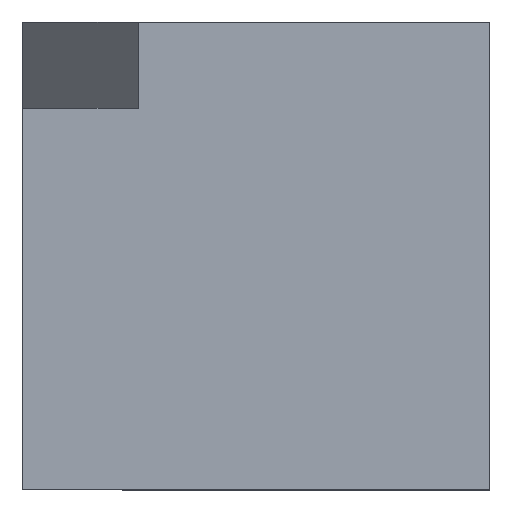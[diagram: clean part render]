
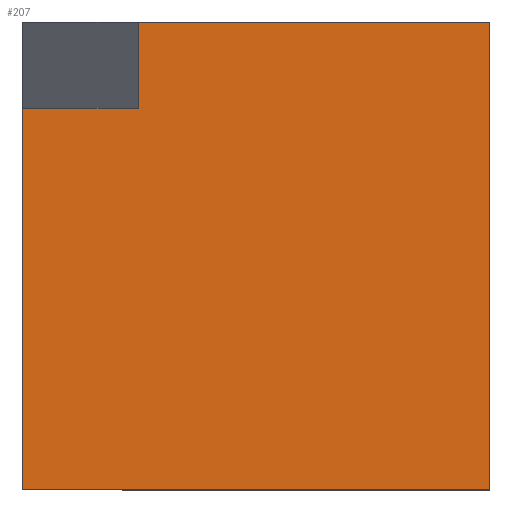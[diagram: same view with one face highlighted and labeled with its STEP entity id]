
A CAD part, top view. The second image highlights one B-rep face of the part: STEP entity #207.
In plain terms, the highlighted planar face has unit normal (0, 0, 1).
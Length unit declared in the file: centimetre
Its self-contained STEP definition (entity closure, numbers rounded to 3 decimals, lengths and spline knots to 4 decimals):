
#2 = VERTEX_POINT ( 'NONE', #575 ) ;
#26 = CARTESIAN_POINT ( 'NONE',  ( 1000., 1000., 1000. ) ) ;
#33 = EDGE_CURVE ( 'NONE', #318, #74, #305, .T. ) ;
#54 = VECTOR ( 'NONE', #194, 100. ) ;
#61 = ORIENTED_EDGE ( 'NONE', *, *, #33, .T. ) ;
#63 = FACE_OUTER_BOUND ( 'NONE', #244, .T. ) ;
#64 = VECTOR ( 'NONE', #544, 100. ) ;
#67 = LINE ( 'NONE', #461, #514 ) ;
#69 = LINE ( 'NONE', #630, #416 ) ;
#71 = PLANE ( 'NONE',  #669 ) ;
#74 = VERTEX_POINT ( 'NONE', #301 ) ;
#77 = ORIENTED_EDGE ( 'NONE', *, *, #364, .T. ) ;
#83 = CARTESIAN_POINT ( 'NONE',  ( 248.1122, 815.625, 1000. ) ) ;
#128 = DIRECTION ( 'NONE',  ( 0., 1., 0. ) ) ;
#137 = LINE ( 'NONE', #83, #230 ) ;
#194 = DIRECTION ( 'NONE',  ( 0., 1., 0. ) ) ;
#207 = ADVANCED_FACE ( 'NONE', ( #63 ), #71, .T. ) ;
#211 = CARTESIAN_POINT ( 'NONE',  ( 248.1122, 1000., 1000. ) ) ;
#227 = CARTESIAN_POINT ( 'NONE',  ( 0., 0., 1000. ) ) ;
#230 = VECTOR ( 'NONE', #354, 100. ) ;
#239 = EDGE_CURVE ( 'NONE', #74, #420, #69, .T. ) ;
#244 = EDGE_LOOP ( 'NONE', ( #578, #655, #77, #310, #61, #366 ) ) ;
#253 = VERTEX_POINT ( 'NONE', #574 ) ;
#267 = EDGE_CURVE ( 'NONE', #2, #420, #67, .T. ) ;
#270 = CARTESIAN_POINT ( 'NONE',  ( 0., 0., 1000. ) ) ;
#281 = EDGE_CURVE ( 'NONE', #253, #318, #576, .T. ) ;
#292 = DIRECTION ( 'NONE',  ( 0., 0., 1. ) ) ;
#301 = CARTESIAN_POINT ( 'NONE',  ( 1000., 1000., 1000. ) ) ;
#305 = LINE ( 'NONE', #26, #54 ) ;
#310 = ORIENTED_EDGE ( 'NONE', *, *, #281, .T. ) ;
#318 = VERTEX_POINT ( 'NONE', #601 ) ;
#354 = DIRECTION ( 'NONE',  ( 1., 0., 0. ) ) ;
#364 = EDGE_CURVE ( 'NONE', #547, #253, #723, .T. ) ;
#366 = ORIENTED_EDGE ( 'NONE', *, *, #239, .T. ) ;
#385 = VECTOR ( 'NONE', #667, 100. ) ;
#416 = VECTOR ( 'NONE', #522, 100. ) ;
#420 = VERTEX_POINT ( 'NONE', #211 ) ;
#461 = CARTESIAN_POINT ( 'NONE',  ( 248.1122, 815.625, 1000. ) ) ;
#488 = CARTESIAN_POINT ( 'NONE',  ( 0., 1000., 1000. ) ) ;
#514 = VECTOR ( 'NONE', #128, 100. ) ;
#522 = DIRECTION ( 'NONE',  ( -1., 0., 0. ) ) ;
#524 = DIRECTION ( 'NONE',  ( 1., 0., 0. ) ) ;
#544 = DIRECTION ( 'NONE',  ( 1., 0., 0. ) ) ;
#547 = VERTEX_POINT ( 'NONE', #565 ) ;
#565 = CARTESIAN_POINT ( 'NONE',  ( 0., 815.625, 1000. ) ) ;
#574 = CARTESIAN_POINT ( 'NONE',  ( 0., 0., 1000. ) ) ;
#575 = CARTESIAN_POINT ( 'NONE',  ( 248.1122, 815.625, 1000. ) ) ;
#576 = LINE ( 'NONE', #270, #64 ) ;
#578 = ORIENTED_EDGE ( 'NONE', *, *, #267, .F. ) ;
#589 = EDGE_CURVE ( 'NONE', #547, #2, #137, .T. ) ;
#601 = CARTESIAN_POINT ( 'NONE',  ( 1000., 0., 1000. ) ) ;
#630 = CARTESIAN_POINT ( 'NONE',  ( 0., 1000., 1000. ) ) ;
#655 = ORIENTED_EDGE ( 'NONE', *, *, #589, .F. ) ;
#667 = DIRECTION ( 'NONE',  ( 0., -1., 0. ) ) ;
#669 = AXIS2_PLACEMENT_3D ( 'NONE', #227, #292, #524 ) ;
#723 = LINE ( 'NONE', #488, #385 ) ;
